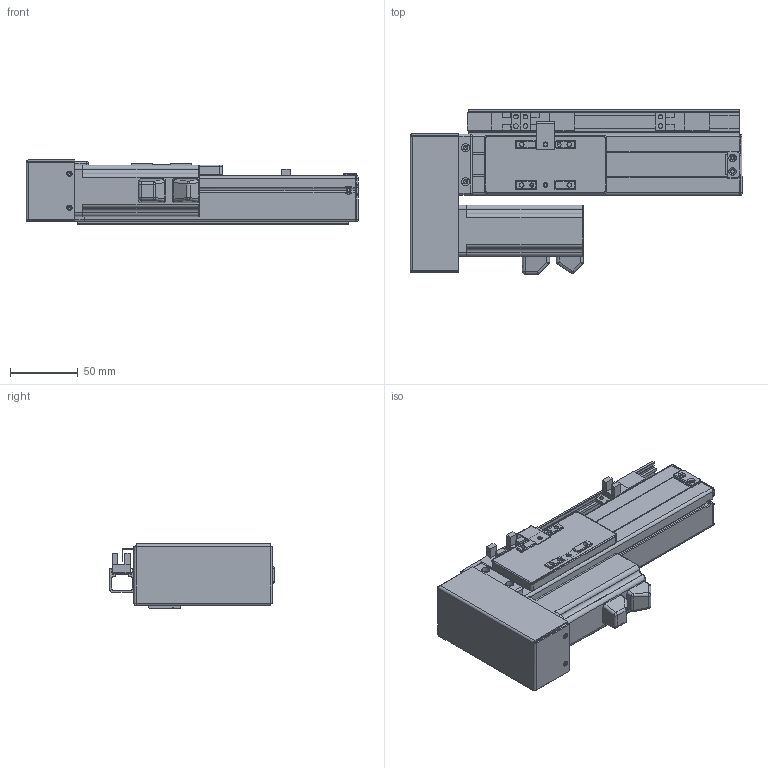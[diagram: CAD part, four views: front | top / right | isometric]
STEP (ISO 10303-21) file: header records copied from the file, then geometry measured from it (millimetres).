
FILE_DESCRIPTION (( 'STEP AP203' ), '1' );
FILE_NAME ('VT4-S80-BL.STEP', '2016-06-17T09:17:57', ( '' ), ( '' ), 'SwSTEP 2.0', 'SolidWorks 2013', '' );
FILE_SCHEMA (( 'CONFIG_CONTROL_DESIGN' ));
Length unit declared in the file: millimetre
Products named in the file (17): T4-BLRM ヶ傷揤輸_A6061; 詩湍; T4-耜啣羲耀芞2_俴最80; T4-綴傷裔; T4-BLR 萇儂欶; T4-賑雄殤; T4-BLR 100w萇儂假蚾啣_A6061; T4-裔啣; T6-癹弇羲壽羞_俴最80; T4-揤輸; EE-SX674-WR; SFKR0802佪裝TBI_俴最80; T4-覜茼え; MGW12C-絳寢_俴最80; 侂狟100W MSMD012G1U; T4-BLRM 粣創釱; VT4-S80-BL
Assembly tree (19 placements, depth 2):
  VT4-S80-BL
    T4-綴傷裔
    T4-耜啣羲耀芞2_俴最80  x2
    T4-賑雄殤
    T4-裔啣
    T4-揤輸
    SFKR0802佪裝TBI_俴最80
    MGW12C-絳寢_俴最80
    T4-BLRM 粣創釱
    T4-BLRM ヶ傷揤輸_A6061
    詩湍
    T4-BLR 萇儂欶
    T4-BLR 100w萇儂假蚾啣_A6061
    T6-癹弇羲壽羞_俴最80
    EE-SX674-WR  x3
    T4-覜茼え
    侂狟100W MSMD012G1U
Bounding box: 245 x 121.25 x 47.25 mm (x, y, z)
Volume: 336854.3 mm3; surface area: 214557.5 mm2
Topology: 22 solids, 22 shells, 1207 faces, 3230 edges, 2041 vertices
Faces by surface type: plane 560, cylinder 532, cone 57, torus 30, sphere 20, bspline 8
Entity records: 33971 total; most frequent: CARTESIAN_POINT 6486, DIRECTION 5492, ORIENTED_EDGE 5236, EDGE_CURVE 2618, AXIS2_PLACEMENT_3D 1959, VERTEX_POINT 1675, VECTOR 1574, LINE 1574
